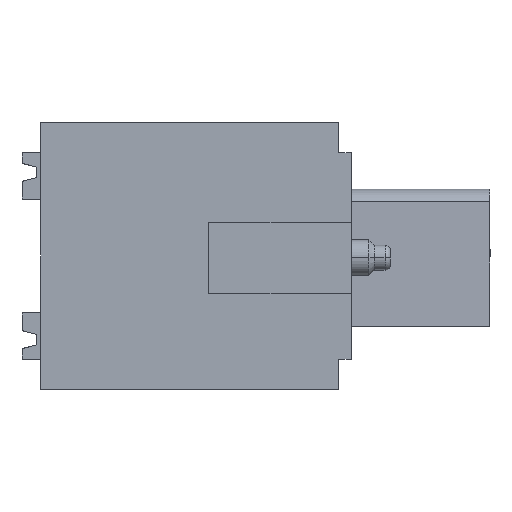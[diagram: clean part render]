
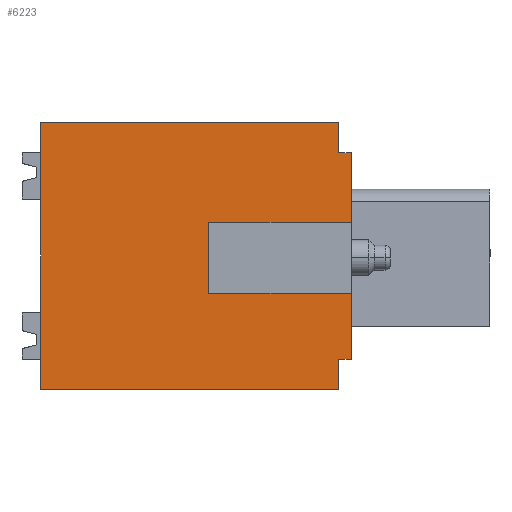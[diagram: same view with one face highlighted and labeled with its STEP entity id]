
A CAD part, left-side view. The second image highlights one B-rep face of the part: STEP entity #6223.
In plain terms, the highlighted planar face has unit normal (-1, 0, 0).
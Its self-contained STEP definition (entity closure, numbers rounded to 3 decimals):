
#161=DIRECTION('',(0.,0.,1.));
#162=VECTOR('',#161,3.7);
#163=CARTESIAN_POINT('',(3.3,7.8,-13.3));
#164=LINE('',#163,#162);
#165=DIRECTION('',(0.,0.,1.));
#166=VECTOR('',#165,3.9);
#167=CARTESIAN_POINT('',(3.3,7.8,-5.6));
#168=LINE('',#167,#166);
#697=DIRECTION('',(0.,1.,0.));
#698=VECTOR('',#697,0.7);
#699=CARTESIAN_POINT('',(3.3,7.8,-1.7));
#700=LINE('',#699,#698);
#713=DIRECTION('',(0.,0.,1.));
#714=VECTOR('',#713,1.7);
#715=CARTESIAN_POINT('',(3.3,8.5,-1.7));
#716=LINE('',#715,#714);
#721=DIRECTION('',(0.,1.,0.));
#722=VECTOR('',#721,16.75);
#723=CARTESIAN_POINT('',(3.3,8.5,0.));
#724=LINE('',#723,#722);
#1001=DIRECTION('',(0.,1.,0.));
#1002=VECTOR('',#1001,0.7);
#1003=CARTESIAN_POINT('',(3.3,7.8,-13.3));
#1004=LINE('',#1003,#1002);
#1005=DIRECTION('',(0.,0.,-1.));
#1006=VECTOR('',#1005,1.7);
#1007=CARTESIAN_POINT('',(3.3,8.5,-13.3));
#1008=LINE('',#1007,#1006);
#1009=DIRECTION('',(0.,1.,0.));
#1010=VECTOR('',#1009,16.75);
#1011=CARTESIAN_POINT('',(3.3,8.5,-15.));
#1012=LINE('',#1011,#1010);
#1013=DIRECTION('',(0.,0.,1.));
#1014=VECTOR('',#1013,15.);
#1015=CARTESIAN_POINT('',(3.3,25.25,-15.));
#1016=LINE('',#1015,#1014);
#1017=DIRECTION('',(0.,-1.,0.));
#1018=VECTOR('',#1017,8.);
#1019=CARTESIAN_POINT('',(3.3,15.8,-5.6));
#1020=LINE('',#1019,#1018);
#1045=DIRECTION('',(0.,1.,0.));
#1046=VECTOR('',#1045,8.);
#1047=CARTESIAN_POINT('',(3.3,7.8,-9.6));
#1048=LINE('',#1047,#1046);
#1057=DIRECTION('',(0.,0.,1.));
#1058=VECTOR('',#1057,4.);
#1059=CARTESIAN_POINT('',(3.3,15.8,-9.6));
#1060=LINE('',#1059,#1058);
#3737=CARTESIAN_POINT('',(3.3,25.25,0.));
#3739=VERTEX_POINT('',#3737);
#3741=CARTESIAN_POINT('',(3.3,25.25,-15.));
#3742=VERTEX_POINT('',#3741);
#3807=CARTESIAN_POINT('',(3.3,7.8,-13.3));
#3808=CARTESIAN_POINT('',(3.3,8.5,-13.3));
#3809=VERTEX_POINT('',#3807);
#3810=VERTEX_POINT('',#3808);
#3811=CARTESIAN_POINT('',(3.3,8.5,0.));
#3812=VERTEX_POINT('',#3811);
#3813=CARTESIAN_POINT('',(3.3,8.5,-1.7));
#3814=VERTEX_POINT('',#3813);
#3815=CARTESIAN_POINT('',(3.3,7.8,-1.7));
#3816=VERTEX_POINT('',#3815);
#3817=CARTESIAN_POINT('',(3.3,15.8,-5.6));
#3818=CARTESIAN_POINT('',(3.3,7.8,-5.6));
#3819=VERTEX_POINT('',#3817);
#3820=VERTEX_POINT('',#3818);
#3821=CARTESIAN_POINT('',(3.3,15.8,-9.6));
#3822=VERTEX_POINT('',#3821);
#3823=CARTESIAN_POINT('',(3.3,7.8,-9.6));
#3824=VERTEX_POINT('',#3823);
#3825=CARTESIAN_POINT('',(3.3,8.5,-15.));
#3826=VERTEX_POINT('',#3825);
#6201=CARTESIAN_POINT('',(3.3,16.525,-7.5));
#6202=DIRECTION('',(1.,0.,0.));
#6203=DIRECTION('',(0.,-1.,0.));
#6204=AXIS2_PLACEMENT_3D('',#6201,#6202,#6203);
#6205=PLANE('',#6204);
#6206=ORIENTED_EDGE('',*,*,#5890,.F.);
#6207=ORIENTED_EDGE('',*,*,#5876,.F.);
#6208=ORIENTED_EDGE('',*,*,#5861,.F.);
#6209=ORIENTED_EDGE('',*,*,#4986,.F.);
#6211=ORIENTED_EDGE('',*,*,#6210,.F.);
#6213=ORIENTED_EDGE('',*,*,#6212,.F.);
#6215=ORIENTED_EDGE('',*,*,#6214,.F.);
#6216=ORIENTED_EDGE('',*,*,#4978,.F.);
#6217=ORIENTED_EDGE('',*,*,#4955,.T.);
#6218=ORIENTED_EDGE('',*,*,#4940,.T.);
#6219=ORIENTED_EDGE('',*,*,#4925,.T.);
#6220=ORIENTED_EDGE('',*,*,#4840,.T.);
#6221=EDGE_LOOP('',(#6206,#6207,#6208,#6209,#6211,#6213,#6215,#6216,#6217,#6218,
#6219,#6220));
#6222=FACE_OUTER_BOUND('',#6221,.F.);
#6223=ADVANCED_FACE('',(#6222),#6205,.F.);
#4840=EDGE_CURVE('',#3742,#3739,#1016,.T.);
#4925=EDGE_CURVE('',#3826,#3742,#1012,.T.);
#4940=EDGE_CURVE('',#3810,#3826,#1008,.T.);
#4955=EDGE_CURVE('',#3809,#3810,#1004,.T.);
#4978=EDGE_CURVE('',#3809,#3824,#164,.T.);
#4986=EDGE_CURVE('',#3820,#3816,#168,.T.);
#5861=EDGE_CURVE('',#3816,#3814,#700,.T.);
#5876=EDGE_CURVE('',#3814,#3812,#716,.T.);
#5890=EDGE_CURVE('',#3812,#3739,#724,.T.);
#6210=EDGE_CURVE('',#3819,#3820,#1020,.T.);
#6212=EDGE_CURVE('',#3822,#3819,#1060,.T.);
#6214=EDGE_CURVE('',#3824,#3822,#1048,.T.);
